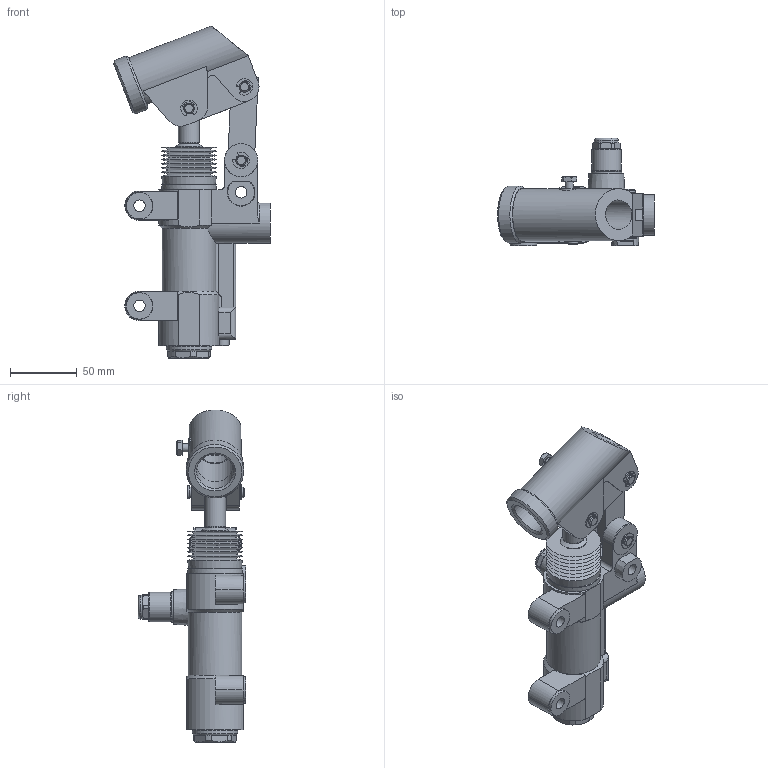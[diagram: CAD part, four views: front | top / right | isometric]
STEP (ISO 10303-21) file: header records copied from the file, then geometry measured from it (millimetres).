
FILE_DESCRIPTION(/* description */ ('Unknown'),/* implementation_level */ '2;1');
FILE_NAME(/* name */ 'HP20EVS',/* time_stamp */ '2024-11-27T14:00:12+01:00',/* author */ ('Unknown'),/* organization */ ('Unknown'),/* preprocessor_version */ 'ST-DEVELOPER v19.4',/* originating_system */ 'Solid Edge',/* authorisation */ 'Unknown');
FILE_SCHEMA (('AUTOMOTIVE_DESIGN {1 0 10303 214 3 1 1}'));
Length unit declared in the file: millimetre
Products named in the file (1): HP20EVS
Bounding box: 117.46 x 80.5 x 248.5 mm (x, y, z)
Volume: 419124.8 mm3; surface area: 117145.4 mm2
Topology: 8 solids, 8 shells, 445 faces, 1117 edges, 723 vertices
Faces by surface type: plane 190, cylinder 165, cone 62, torus 17, bspline 8, sphere 3
Full cylindrical faces by diameter (mm): 4.917 x1, 5 x1, 5.1 x3, 5.994 x5, 7.792 x6, 8 x4, 8.092 x6, 8.1 x1, 8.6 x3, 8.7 x1, 9.99 x3, 10 x2, 10.5 x1, 11 x1, 13.8 x1, 14.95 x2, 15 x1, 15.2 x1, 15.8 x1, 16 x3, 17 x2, 18 x1, 18.631 x2, 20 x1, 21.978 x1, 22 x1, 23 x2, 25 x1, 27.473 x2, 27.5 x1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
Entity records: 16732 total; most frequent: CARTESIAN_POINT 4529, DIRECTION 2117, ORIENTED_EDGE 1796, EDGE_CURVE 898, AXIS2_PLACEMENT_3D 867, FACE_BOUND 675, EDGE_LOOP 672, VERTEX_POINT 653
